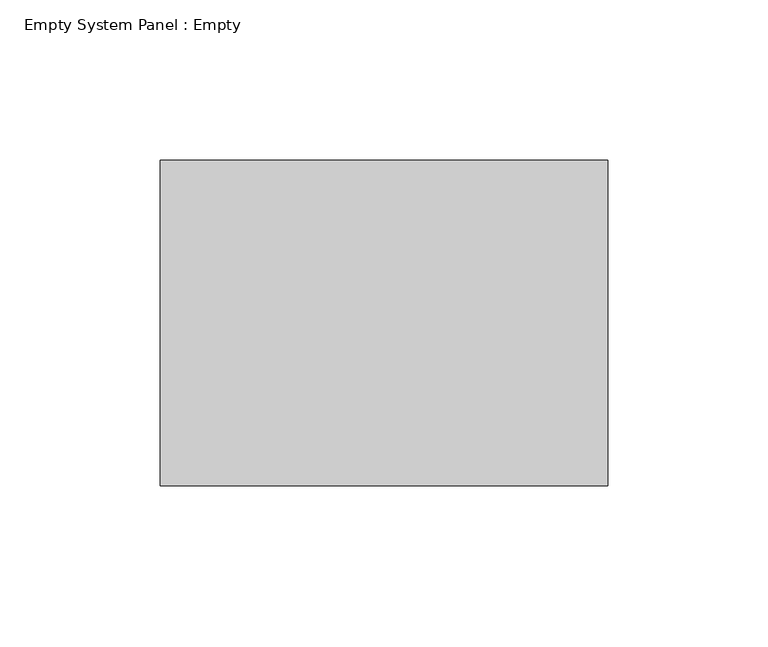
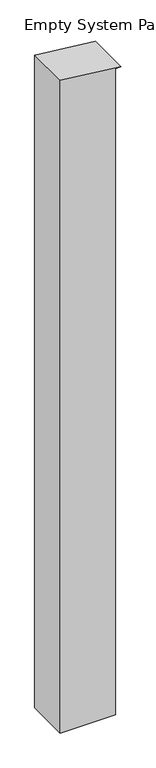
"""IFC4 building model written with IfcOpenShell, lengths in millimetres: plate geometry, Empty System Panel : Empty."""

from ifc_helpers import new_model, si_unit, frame, origin, place, context, project, spatial, polyline, outline, extrude, source, transform, mapped, element, save


def empty_system_panel_empty_c0a61bd4(model_context):
    return source(origin(), model_context, "Body", "SweptSolid", [
        extrude(outline(polyline([(0.0, -69.85), (0.0, 57.15), (1570.8879148, 57.15), (1570.8879148, 69.85), (1586.5131047, -69.85), (0.0, -69.85)])), frame((0.0, -50.8, 0.0), z_axis=(0.0, 1.0, 0.0), x_axis=(0.0, 0.0, 1.0)), (0.0, 0.0, 1.0), 101.6),
    ])


if __name__ == "__main__":
    model = new_model("IFC4")
    model_context = context("Model", 3, world=origin())
    ifc_project = project(units=[si_unit("LENGTHUNIT", "METRE", prefix="MILLI")], contexts=[model_context])
    site = spatial("IfcSite", under=ifc_project)
    building = spatial("IfcBuilding", under=site)
    placement = place(None, origin())
    empty_system_panel_empty_shape = empty_system_panel_empty_c0a61bd4(model_context)
    element("IfcPlate", 1, ObjectType="Empty System Panel : Empty", at=placement, inside=building, context=model_context, shape_type="MappedRepresentation", body=[
        mapped(empty_system_panel_empty_shape, transform((0.0, 0.0, 0.0), x_axis=(1.0, 0.0, 0.0), y_axis=(0.0, 1.0, 0.0), z_axis=(0.0, 0.0, 1.0))),
    ])
    save(model, "model.ifc")
